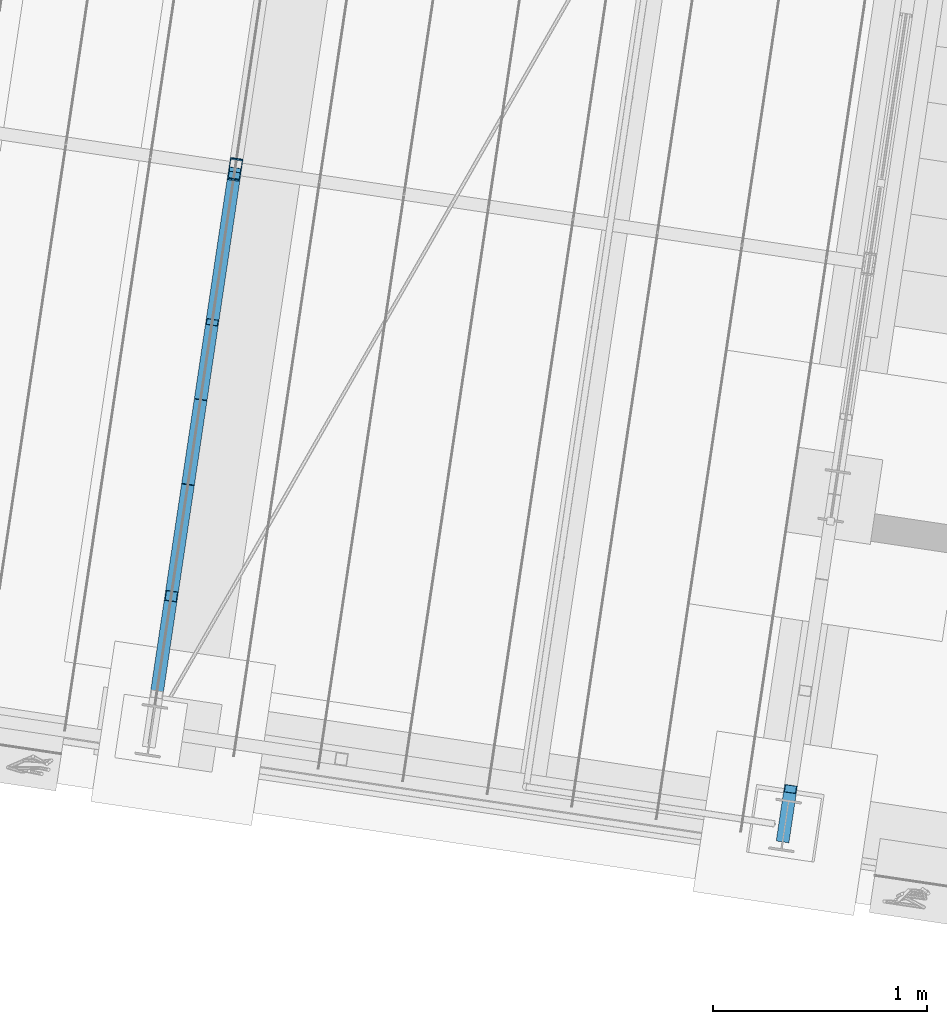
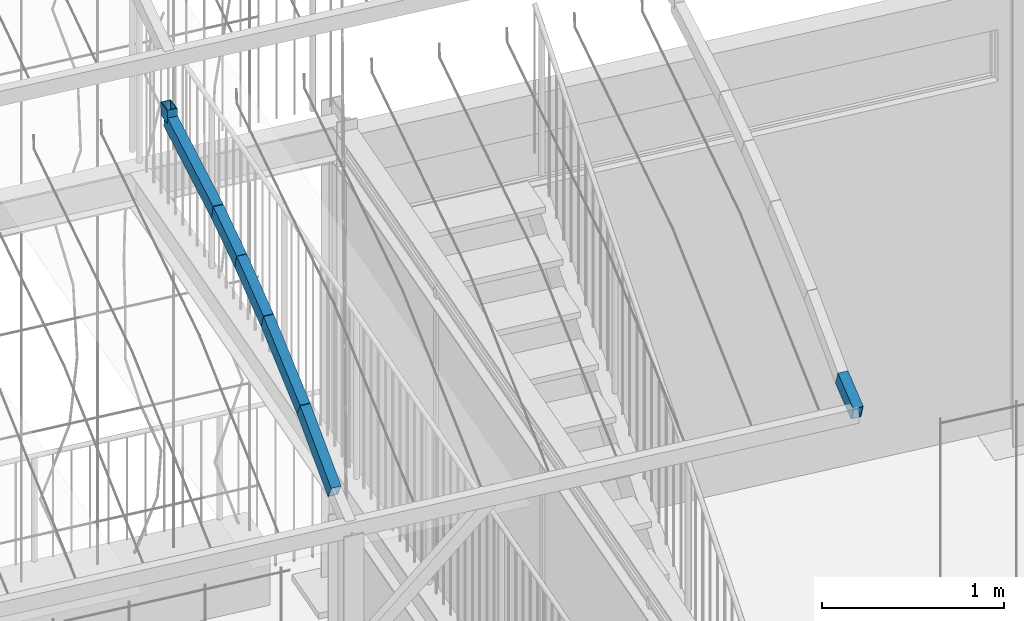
# One storey, part 110 of 143: 7 members, 1 element without a shape of its own.
"""IFC4 building model written with IfcOpenShell, lengths in metres."""

from ifc_helpers import new_model, si_unit, direction, frame, origin_with_axes, place, context, subcontext, project, spatial, hollow_rectangle, extrude, material, material_profile, profile_set, profile_usage, type_object, element, aggregate, save


model = new_model("IFC4")

# Units and contexts
model_context = context("Model", 3, precision=1e-05, world=origin_with_axes(), true_north=direction((0.0, 1.0)))
body_context = subcontext(model_context, "Body", "Model", "MODEL_VIEW")
ifc_project = project(units=[si_unit("VOLUMEUNIT", "CUBIC_METRE"), si_unit("LENGTHUNIT", "METRE"), si_unit("AREAUNIT", "SQUARE_METRE")], contexts=[model_context])

# Site, building, storey
site_placement = place(None, origin_with_axes())
site = spatial("IfcSite", under=ifc_project, at=site_placement, Name="Lares · Rua das Mercês · artigo 4771")
building_placement = place(site_placement, frame((15.0, 9.7, 15.8), z_axis=(0.0, 0.0, 1.0), x_axis=(0.989015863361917, -0.147809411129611, 0.0)))
building = spatial("IfcBuilding", under=site, at=building_placement, Name="Casa Sobreposta")
storey_placement = place(building_placement, origin_with_axes())
storey = spatial("IfcBuildingStorey", under=building, at=storey_placement, Name="00 · Habitação e estacionamento", Elevation=15.8)

# Assembly, members
assembly_placement = place(storey_placement, origin_with_axes())
assembly = element("IfcElementAssembly", 1, at=assembly_placement, inside=storey, Name="Pérgola · prolongamento da estufa 6 m", ObjectType="PERGOLA_GREENHOUSE_EXTENSION", PredefinedType="USERDEFINED")
ifc_material = material(Name="Aço pintado / Stahl lackiert", Category="steel")
ifc_material_profile = material_profile(ifc_material, hollow_rectangle(XDim=0.06, YDim=0.1, WallThickness=0.004))
ifc_profile_set = profile_set([ifc_material_profile], Name="RHS100x60x4")
ifc_profile_usage_1 = profile_usage(ifc_profile_set)
member_type = type_object("IfcMemberType", Name="RHS100x60x4 / steel", PredefinedType="NOTDEFINED", material=ifc_profile_set)
member_1_placement = place(assembly_placement, frame((-3.0, -1.26765509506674, 6.32392631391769), z_axis=(0.0, 0.878851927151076, 0.477094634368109), x_axis=(1.0, 0.0, 0.0)))
member_1 = element("IfcMember", 2, at=member_1_placement, type_object=member_type, material=ifc_profile_usage_1, Name="Pérgola · arco contínuo com a estufa", context=body_context, shape_type="SweptSolid", body=[
    extrude(hollow_rectangle(XDim=0.06, YDim=0.1, WallThickness=0.004), origin_with_axes(), (0.0, 0.0, 1.0), 0.52863528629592),
])
ifc_profile_usage_2 = profile_usage(ifc_profile_set)
member_2_placement = place(assembly_placement, frame((-3.0, -0.803062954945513, 6.57613537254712), z_axis=(0.0, 0.915885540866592, 0.401439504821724), x_axis=(1.0, 0.0, 0.0)))
member_2 = element("IfcMember", 3, at=member_2_placement, type_object=member_type, material=ifc_profile_usage_2, Name="Pérgola · arco contínuo com a estufa", context=body_context, shape_type="SweptSolid", body=[
    extrude(hollow_rectangle(XDim=0.06, YDim=0.1, WallThickness=0.004), origin_with_axes(), (0.0, 0.0, 1.0), 0.596771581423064),
])
ifc_profile_usage_3 = profile_usage(ifc_profile_set)
member_3_placement = place(assembly_placement, frame((-3.0, -0.256488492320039, 6.81570306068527), z_axis=(0.0, 0.942820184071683, 0.333301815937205), x_axis=(1.0, 0.0, 0.0)))
member_3 = element("IfcMember", 4, at=member_3_placement, type_object=member_type, material=ifc_profile_usage_3, Name="Pérgola · arco contínuo com a estufa", context=body_context, shape_type="SweptSolid", body=[
    extrude(hollow_rectangle(XDim=0.06, YDim=0.1, WallThickness=0.004), origin_with_axes(), (0.0, 0.0, 1.0), 0.423025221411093),
])
ifc_profile_usage_4 = profile_usage(ifc_profile_set)
member_4_placement = place(assembly_placement, frame((-3.0, 0.142348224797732, 6.95669813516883), z_axis=(0.0, 0.959692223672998, 0.281053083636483), x_axis=(1.0, 0.0, 0.0)))
member_4 = element("IfcMember", 5, at=member_4_placement, type_object=member_type, material=ifc_profile_usage_4, Name="Pérgola · arco contínuo com a estufa", context=body_context, shape_type="SweptSolid", body=[
    extrude(hollow_rectangle(XDim=0.06, YDim=0.1, WallThickness=0.004), origin_with_axes(), (0.0, 0.0, 1.0), 0.365557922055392),
])
ifc_profile_usage_5 = profile_usage(ifc_profile_set)
member_5_placement = place(assembly_placement, frame((-3.0, 0.493171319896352, 7.05943931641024), z_axis=(0.0, 0.977995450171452, 0.208626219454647), x_axis=(1.0, 0.0, 0.0)))
member_5 = element("IfcMember", 6, at=member_5_placement, type_object=member_type, material=ifc_profile_usage_5, Name="Pérgola · arco contínuo com a estufa", context=body_context, shape_type="SweptSolid", body=[
    extrude(hollow_rectangle(XDim=0.06, YDim=0.1, WallThickness=0.004), origin_with_axes(), (0.0, 0.0, 1.0), 0.737465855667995),
])
ifc_profile_usage_6 = profile_usage(ifc_profile_set)
member_6_placement = place(assembly_placement, frame((-3.0, 1.21440957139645, 7.21329402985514), z_axis=(0.0, 0.0686229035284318, 0.997642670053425), x_axis=(1.0, 0.0, 0.0)))
member_6 = element("IfcMember", 7, at=member_6_placement, type_object=member_type, material=ifc_profile_usage_6, Name="Pérgola · arco contínuo com a estufa", context=body_context, shape_type="SweptSolid", body=[
    extrude(hollow_rectangle(XDim=0.06, YDim=0.1, WallThickness=0.004), origin_with_axes(), (0.0, 0.0, 1.0), 0.0875893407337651),
])
ifc_profile_usage_7 = profile_usage(ifc_profile_set)
member_7_placement = place(assembly_placement, frame((0.0, -1.5, 6.23430000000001), z_axis=(0.0, 0.932991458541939, 0.35989851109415), x_axis=(1.0, 0.0, 0.0)))
member_7 = element("IfcMember", 8, at=member_7_placement, type_object=member_type, material=ifc_profile_usage_7, Name="Pérgola · arco contínuo com a estufa", context=body_context, shape_type="SweptSolid", body=[
    extrude(hollow_rectangle(XDim=0.06, YDim=0.1, WallThickness=0.004), origin_with_axes(), (0.0, 0.0, 1.0), 0.249032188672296),
])
aggregate(assembly, [member_1, member_2, member_3, member_4, member_5, member_6, member_7])

save(model, "model.ifc")
